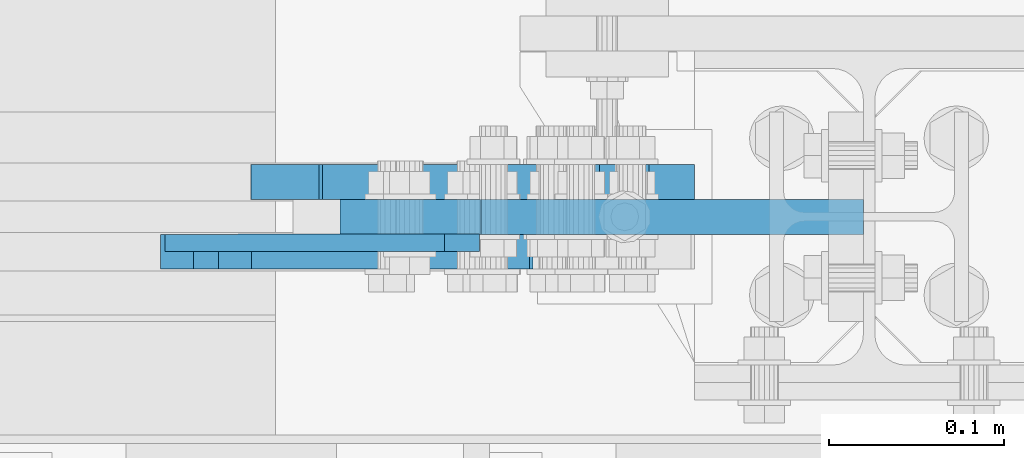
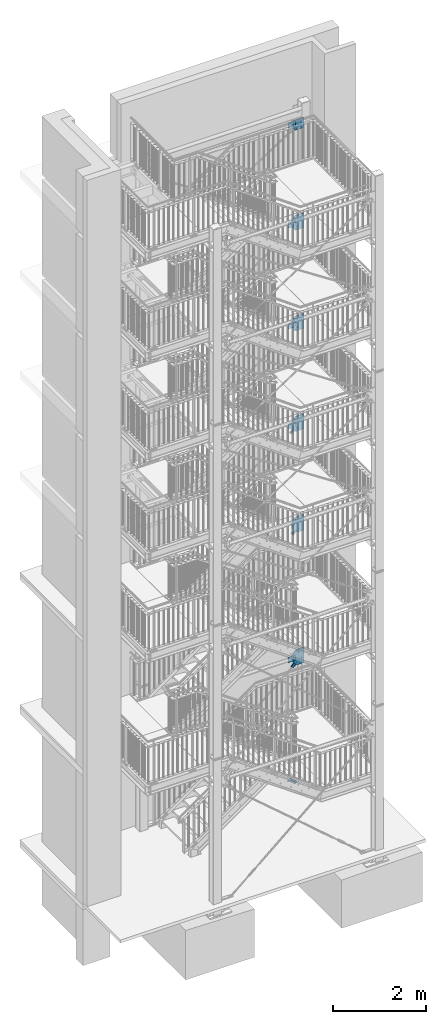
# One storey, part 210 of 825: 15 plates, 63 openings.
"""IFC2X3 building model written with IfcOpenShell, lengths in millimetres."""

from ifc_helpers import new_model, entity, si_unit, converted_unit, frame, frame_2d, origin, origin_with_axes, place, context, project, spatial, polyline, circle, outline, extrude, material, layer, layer_set, element, save


model = new_model("IFC2X3")

# Units and contexts
model_context = context("Model", 3, precision=1e-09, world=origin_with_axes())
ifc_project = project(units=[si_unit("LENGTHUNIT", "METRE", prefix="MILLI"), si_unit("AREAUNIT", "SQUARE_METRE"), si_unit("VOLUMEUNIT", "CUBIC_METRE"), converted_unit("PLANEANGLEUNIT", "DEGREE", entity("IfcPlaneAngleMeasure", 0.01745329), si_unit("PLANEANGLEUNIT", "RADIAN"), dimensions=[0, 0, 0, 0, 0, 0, 0])], contexts=[model_context])

# Site, building, storey
site_placement = place(None, origin_with_axes())
site = spatial("IfcSite", under=ifc_project, at=site_placement, Name="Cnopf'sche Kinderklinik", CompositionType="ELEMENT")
building_placement = place(site_placement, origin_with_axes())
building = spatial("IfcBuilding", under=site, at=building_placement, Name="Struktur 1", CompositionType="ELEMENT")
storey_placement = place(building_placement, origin_with_axes())
storey = spatial("IfcBuildingStorey", under=building, at=storey_placement, Name="Default Storey", CompositionType="ELEMENT", Elevation=0.0)

# Plate, openings
ifc_material = material(Name="S235JR")
ifc_layer_1 = layer(ifc_material, 10.0)
ifc_layer_set_1 = layer_set([ifc_layer_1], Name="S235JR")
plate_1_placement = place(None, frame((8553.463402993, 7506.736971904, 3511.999996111), z_axis=(0.0, -1.0, 0.0), x_axis=(1.0, 0.0, 0.0)))
plate_1 = element("IfcPlate", 1, at=plate_1_placement, inside=storey, material=ifc_layer_set_1, Name="-", ObjectType="-", context=model_context, shape_type="SweptSolid", body=[
    extrude(outline(polyline([(-90.0, -70.0), (90.0, -70.0), (90.0, 70.0), (-90.0, 70.0), (-90.0, -70.0)])), origin_with_axes(), (0.0, 0.0, 1.0), 10.0),
])
opening_1_placement = place(plate_1_placement, frame((0.0, 0.0, -0.01), z_axis=(0.0, 0.0, 1.0), x_axis=(1.0, 0.0, 0.0)))
element("IfcOpeningElement", 2, at=opening_1_placement, cuts=plate_1, ObjectType="Opening", context=model_context, shape_type="SweptSolid", body=[
    extrude(outline(polyline([(90.0, -70.0), (90.0, -50.0), (70.0, -70.0), (90.0, -70.0)])), origin(), (0.0, 0.0, 1.0), 10.02),
])
opening_2_placement = place(plate_1_placement, frame((0.0, 0.0, -0.01), z_axis=(0.0, 0.0, 1.0), x_axis=(1.0, 0.0, 0.0)))
element("IfcOpeningElement", 3, at=opening_2_placement, cuts=plate_1, ObjectType="Opening", context=model_context, shape_type="SweptSolid", body=[
    extrude(outline(polyline([(90.0, 70.0), (70.0, 70.0), (90.0, 50.0), (90.0, 70.0)])), origin(), (0.0, 0.0, 1.0), 10.02),
])
opening_3_placement = place(plate_1_placement, frame((50.0, 0.0, -0.5), z_axis=(0.0, 0.0, 1.0), x_axis=(1.0, 0.0, 0.0)))
element("IfcOpeningElement", 4, at=opening_3_placement, cuts=plate_1, ObjectType="Opening", context=model_context, shape_type="SweptSolid", body=[
    extrude(circle(Radius=9.001, at=frame_2d((0.0, 30.0), x_axis=(1.0, 0.0))), origin(), (0.0, 0.0, 1.0), 11.0),
])
opening_4_placement = place(plate_1_placement, frame((50.0, 0.0, -0.5), z_axis=(0.0, 0.0, 1.0), x_axis=(1.0, 0.0, 0.0)))
element("IfcOpeningElement", 5, at=opening_4_placement, cuts=plate_1, ObjectType="Opening", context=model_context, shape_type="SweptSolid", body=[
    extrude(circle(Radius=9.001, at=frame_2d((0.0, -30.0), x_axis=(1.0, 0.0))), origin(), (0.0, 0.0, 1.0), 11.0),
])

plate_2_placement = place(None, frame((8553.463402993, 7506.736971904, 9616.999996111), z_axis=(0.0, -1.0, 0.0), x_axis=(1.0, 0.0, 0.0)))
plate_2 = element("IfcPlate", 6, at=plate_2_placement, inside=storey, material=ifc_layer_set_1, Name="-", ObjectType="-", context=model_context, shape_type="SweptSolid", body=[
    extrude(outline(polyline([(-90.0, -70.0), (90.0, -70.0), (90.0, 70.0), (-90.0, 70.0), (-90.0, -70.0)])), origin_with_axes(), (0.0, 0.0, 1.0), 10.0),
])
opening_5_placement = place(plate_2_placement, frame((0.0, 0.0, -0.01), z_axis=(0.0, 0.0, 1.0), x_axis=(1.0, 0.0, 0.0)))
element("IfcOpeningElement", 7, at=opening_5_placement, cuts=plate_2, ObjectType="Opening", context=model_context, shape_type="SweptSolid", body=[
    extrude(outline(polyline([(90.0, -70.0), (90.0, -50.0), (70.0, -70.0), (90.0, -70.0)])), origin(), (0.0, 0.0, 1.0), 10.02),
])
opening_6_placement = place(plate_2_placement, frame((0.0, 0.0, -0.01), z_axis=(0.0, 0.0, 1.0), x_axis=(1.0, 0.0, 0.0)))
element("IfcOpeningElement", 8, at=opening_6_placement, cuts=plate_2, ObjectType="Opening", context=model_context, shape_type="SweptSolid", body=[
    extrude(outline(polyline([(90.0, 70.0), (70.0, 70.0), (90.0, 50.0), (90.0, 70.0)])), origin(), (0.0, 0.0, 1.0), 10.02),
])
opening_7_placement = place(plate_2_placement, frame((50.0, 0.0, -0.5), z_axis=(0.0, 0.0, 1.0), x_axis=(1.0, 0.0, 0.0)))
element("IfcOpeningElement", 9, at=opening_7_placement, cuts=plate_2, ObjectType="Opening", context=model_context, shape_type="SweptSolid", body=[
    extrude(circle(Radius=9.001, at=frame_2d((0.0, 30.0), x_axis=(1.0, 0.0))), origin(), (0.0, 0.0, 1.0), 11.0),
])
opening_8_placement = place(plate_2_placement, frame((50.0, 0.0, -0.5), z_axis=(0.0, 0.0, 1.0), x_axis=(1.0, 0.0, 0.0)))
element("IfcOpeningElement", 10, at=opening_8_placement, cuts=plate_2, ObjectType="Opening", context=model_context, shape_type="SweptSolid", body=[
    extrude(circle(Radius=9.001, at=frame_2d((0.0, -30.0), x_axis=(1.0, 0.0))), origin(), (0.0, 0.0, 1.0), 11.0),
])

ifc_layer_2 = layer(ifc_material, 20.0)
ifc_layer_set_2 = layer_set([ifc_layer_2], Name="S235JR")
plate_3_placement = place(None, frame((8863.463402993, 7506.736971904, 3302.430347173), z_axis=(0.0, -1.0, 0.0), x_axis=(0.0, 0.0, 1.0)))
plate_3 = element("IfcPlate", 11, at=plate_3_placement, inside=storey, material=ifc_layer_set_2, Name="-", ObjectType="-", context=model_context, shape_type="SweptSolid", body=[
    extrude(outline(polyline([(0.0, 0.0), (403.206365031, 0.0), (403.206365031, 192.087654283), (279.569648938, 300.0), (139.569648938, 300.0), (0.0, 181.139563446), (0.0, 0.0)])), origin_with_axes(), (0.0, 0.0, -1.0), 20.0),
])
opening_9_placement = place(plate_3_placement, frame((209.569648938, 260.0, -20.5), z_axis=(0.0, 0.0, 1.0), x_axis=(0.0, -1.0, 0.0)))
element("IfcOpeningElement", 12, at=opening_9_placement, cuts=plate_3, ObjectType="Opening", context=model_context, shape_type="SweptSolid", body=[
    extrude(circle(Radius=9.001, at=frame_2d((0.0, 30.0), x_axis=(1.0, 0.0))), origin(), (0.0, 0.0, 1.0), 21.0),
])
opening_10_placement = place(plate_3_placement, frame((209.569648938, 260.0, -20.5), z_axis=(0.0, 0.0, 1.0), x_axis=(0.0, -1.0, 0.0)))
element("IfcOpeningElement", 13, at=opening_10_placement, cuts=plate_3, ObjectType="Opening", context=model_context, shape_type="SweptSolid", body=[
    extrude(circle(Radius=9.001, at=frame_2d((0.0, -30.0), x_axis=(1.0, 0.0))), origin(), (0.0, 0.0, 1.0), 21.0),
])
opening_11_placement = place(plate_3_placement, frame((360.470508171, 170.983355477, -20.5), z_axis=(0.0, 0.0, -1.0), x_axis=(-1.0, 0.0, 0.0)))
element("IfcOpeningElement", 14, at=opening_11_placement, cuts=plate_3, ObjectType="Opening", context=model_context, shape_type="SweptSolid", body=[
    extrude(circle(Radius=9.001, at=frame_2d((-5.89276857, 6.803916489), x_axis=(1.0, 0.0))), origin(), (0.0, 0.0, -1.0), 21.0),
])
opening_12_placement = place(plate_3_placement, frame((321.189748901, 125.628951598, -20.5), z_axis=(0.0, 0.0, -1.0), x_axis=(-1.0, 0.0, 0.0)))
element("IfcOpeningElement", 15, at=opening_12_placement, cuts=plate_3, ObjectType="Opening", context=model_context, shape_type="SweptSolid", body=[
    extrude(circle(Radius=9.001, at=frame_2d((-5.89276857, 6.803916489), x_axis=(1.0, 0.0))), origin(), (0.0, 0.0, -1.0), 21.0),
])
opening_13_placement = place(plate_3_placement, frame((71.619889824, 156.998706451, -20.5), z_axis=(0.0, 0.0, 1.0), x_axis=(-0.652408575, 0.757867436, 0.0)))
element("IfcOpeningElement", 16, at=opening_13_placement, cuts=plate_3, ObjectType="Opening", context=model_context, shape_type="SweptSolid", body=[
    extrude(circle(Radius=9.001, at=frame_2d((30.0, 0.0), x_axis=(1.0, 0.0))), origin(), (0.0, 0.0, 1.0), 21.0),
])
opening_14_placement = place(plate_3_placement, frame((71.619889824, 156.998706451, -20.5), z_axis=(0.0, 0.0, 1.0), x_axis=(-0.652408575, 0.757867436, 0.0)))
element("IfcOpeningElement", 17, at=opening_14_placement, cuts=plate_3, ObjectType="Opening", context=model_context, shape_type="SweptSolid", body=[
    extrude(circle(Radius=9.001, at=frame_2d((-30.0, 0.0), x_axis=(1.0, 0.0))), origin(), (0.0, 0.0, 1.0), 21.0),
])

plate_4_placement = place(None, frame((8863.463402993, 7526.736971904, 7178.428402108), z_axis=(0.0, 1.0, 0.0), x_axis=(0.0, 0.0, -1.0)))
plate_4 = element("IfcPlate", 18, at=plate_4_placement, inside=storey, material=ifc_layer_set_2, Name="-", ObjectType="-", context=model_context, shape_type="SweptSolid", body=[
    extrude(outline(polyline([(0.0, 0.0), (404.06512209, 0.0), (404.06512209, 177.249749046), (263.428405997, 300.0), (123.428405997, 300.0), (0.0, 219.202103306), (0.0, 0.0)])), origin_with_axes(), (0.0, 0.0, -1.0), 20.0),
])
opening_15_placement = place(plate_4_placement, frame((193.428405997, 260.0, 0.5), z_axis=(0.0, 0.0, -1.0), x_axis=(0.0, -1.0, 0.0)))
element("IfcOpeningElement", 19, at=opening_15_placement, cuts=plate_4, ObjectType="Opening", context=model_context, shape_type="SweptSolid", body=[
    extrude(circle(Radius=9.001, at=frame_2d((0.0, 30.0), x_axis=(1.0, 0.0))), origin(), (0.0, 0.0, 1.0), 21.0),
])
opening_16_placement = place(plate_4_placement, frame((193.428405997, 260.0, 0.5), z_axis=(0.0, 0.0, -1.0), x_axis=(0.0, -1.0, 0.0)))
element("IfcOpeningElement", 20, at=opening_16_placement, cuts=plate_4, ObjectType="Opening", context=model_context, shape_type="SweptSolid", body=[
    extrude(circle(Radius=9.001, at=frame_2d((0.0, -30.0), x_axis=(1.0, 0.0))), origin(), (0.0, 0.0, 1.0), 21.0),
])
opening_17_placement = place(plate_4_placement, frame((57.299912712, 204.149413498, 0.5), z_axis=(0.0, 0.0, 1.0), x_axis=(1.0, 0.0, 0.0)))
element("IfcOpeningElement", 21, at=opening_17_placement, cuts=plate_4, ObjectType="Opening", context=model_context, shape_type="SweptSolid", body=[
    extrude(circle(Radius=9.001, at=frame_2d((-4.939030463, 7.524890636), x_axis=(1.0, 0.0))), origin(), (0.0, 0.0, -1.0), 21.0),
])
opening_18_placement = place(plate_4_placement, frame((90.223124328, 153.989049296, 0.5), z_axis=(0.0, 0.0, 1.0), x_axis=(1.0, 0.0, 0.0)))
element("IfcOpeningElement", 22, at=opening_18_placement, cuts=plate_4, ObjectType="Opening", context=model_context, shape_type="SweptSolid", body=[
    extrude(circle(Radius=9.001, at=frame_2d((-4.939030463, 7.524890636), x_axis=(1.0, 0.0))), origin(), (0.0, 0.0, -1.0), 21.0),
])
opening_19_placement = place(plate_4_placement, frame((330.702941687, 155.250111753, 0.5), z_axis=(0.0, 0.0, -1.0), x_axis=(0.654679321, 0.755906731, 0.0)))
element("IfcOpeningElement", 23, at=opening_19_placement, cuts=plate_4, ObjectType="Opening", context=model_context, shape_type="SweptSolid", body=[
    extrude(circle(Radius=9.001, at=frame_2d((30.0, 0.0), x_axis=(1.0, 0.0))), origin(), (0.0, 0.0, 1.0), 21.0),
])
opening_20_placement = place(plate_4_placement, frame((330.702941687, 155.250111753, 0.5), z_axis=(0.0, 0.0, -1.0), x_axis=(0.654679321, 0.755906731, 0.0)))
element("IfcOpeningElement", 24, at=opening_20_placement, cuts=plate_4, ObjectType="Opening", context=model_context, shape_type="SweptSolid", body=[
    extrude(circle(Radius=9.001, at=frame_2d((-30.0, 0.0), x_axis=(1.0, 0.0))), origin(), (0.0, 0.0, 1.0), 21.0),
])

plate_5_placement = place(None, frame((8863.463402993, 7526.736971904, 9810.428402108), z_axis=(0.0, 1.0, 0.0), x_axis=(0.0, 0.0, -1.0)))
plate_5 = element("IfcPlate", 25, at=plate_5_placement, inside=storey, material=ifc_layer_set_2, Name="-", ObjectType="-", context=model_context, shape_type="SweptSolid", body=[
    extrude(outline(polyline([(0.0, 0.0), (386.856811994, 0.0), (386.856811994, 219.202103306), (263.428405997, 300.0), (123.428405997, 300.0), (0.0, 219.202103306), (0.0, 0.0)])), origin_with_axes(), (0.0, 0.0, -1.0), 20.0),
])
opening_21_placement = place(plate_5_placement, frame((193.428405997, 260.0, 0.5), z_axis=(0.0, 0.0, -1.0), x_axis=(0.0, -1.0, 0.0)))
element("IfcOpeningElement", 26, at=opening_21_placement, cuts=plate_5, ObjectType="Opening", context=model_context, shape_type="SweptSolid", body=[
    extrude(circle(Radius=9.001, at=frame_2d((0.0, 30.0), x_axis=(1.0, 0.0))), origin(), (0.0, 0.0, 1.0), 21.0),
])
opening_22_placement = place(plate_5_placement, frame((193.428405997, 260.0, 0.5), z_axis=(0.0, 0.0, -1.0), x_axis=(0.0, -1.0, 0.0)))
element("IfcOpeningElement", 27, at=opening_22_placement, cuts=plate_5, ObjectType="Opening", context=model_context, shape_type="SweptSolid", body=[
    extrude(circle(Radius=9.001, at=frame_2d((0.0, -30.0), x_axis=(1.0, 0.0))), origin(), (0.0, 0.0, 1.0), 21.0),
])
opening_23_placement = place(plate_5_placement, frame((318.119575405, 186.723853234, 0.5), z_axis=(0.0, 0.0, -1.0), x_axis=(0.548722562, 0.836004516, 0.0)))
element("IfcOpeningElement", 28, at=opening_23_placement, cuts=plate_5, ObjectType="Opening", context=model_context, shape_type="SweptSolid", body=[
    extrude(circle(Radius=9.001, at=frame_2d((30.0, 0.0), x_axis=(1.0, 0.0))), origin(), (0.0, 0.0, 1.0), 21.0),
])
opening_24_placement = place(plate_5_placement, frame((318.119575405, 186.723853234, 0.5), z_axis=(0.0, 0.0, -1.0), x_axis=(0.548722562, 0.836004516, 0.0)))
element("IfcOpeningElement", 29, at=opening_24_placement, cuts=plate_5, ObjectType="Opening", context=model_context, shape_type="SweptSolid", body=[
    extrude(circle(Radius=9.001, at=frame_2d((-30.0, 0.0), x_axis=(1.0, 0.0))), origin(), (0.0, 0.0, 1.0), 21.0),
])
opening_25_placement = place(plate_5_placement, frame((57.480828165, 204.267999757, 0.5), z_axis=(0.0, 0.0, 1.0), x_axis=(1.0, 0.0, 0.0)))
element("IfcOpeningElement", 30, at=opening_25_placement, cuts=plate_5, ObjectType="Opening", context=model_context, shape_type="SweptSolid", body=[
    extrude(circle(Radius=9.001, at=frame_2d((-4.932467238, 7.529194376), x_axis=(1.0, 0.0))), origin(), (0.0, 0.0, -1.0), 21.0),
])
opening_26_placement = place(plate_5_placement, frame((90.360289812, 154.078947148, 0.5), z_axis=(0.0, 0.0, 1.0), x_axis=(1.0, 0.0, 0.0)))
element("IfcOpeningElement", 31, at=opening_26_placement, cuts=plate_5, ObjectType="Opening", context=model_context, shape_type="SweptSolid", body=[
    extrude(circle(Radius=9.001, at=frame_2d((-4.932467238, 7.529194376), x_axis=(1.0, 0.0))), origin(), (0.0, 0.0, -1.0), 21.0),
])

plate_6_placement = place(None, frame((8863.463402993, 7526.736971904, 12437.428402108), z_axis=(0.0, 1.0, 0.0), x_axis=(0.0, 0.0, -1.0)))
plate_6 = element("IfcPlate", 32, at=plate_6_placement, inside=storey, material=ifc_layer_set_2, Name="-", ObjectType="-", context=model_context, shape_type="SweptSolid", body=[
    extrude(outline(polyline([(0.0, 0.0), (386.856811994, 0.0), (386.856811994, 219.202103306), (263.428405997, 300.0), (123.428405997, 300.0), (0.0, 219.202103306), (0.0, 0.0)])), origin_with_axes(), (0.0, 0.0, -1.0), 20.0),
])
opening_27_placement = place(plate_6_placement, frame((193.428405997, 260.000000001, 0.5), z_axis=(0.0, 0.0, -1.0), x_axis=(0.0, -1.0, 0.0)))
element("IfcOpeningElement", 33, at=opening_27_placement, cuts=plate_6, ObjectType="Opening", context=model_context, shape_type="SweptSolid", body=[
    extrude(circle(Radius=9.001, at=frame_2d((0.0, 30.0), x_axis=(1.0, 0.0))), origin(), (0.0, 0.0, 1.0), 21.0),
])
opening_28_placement = place(plate_6_placement, frame((193.428405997, 260.000000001, 0.5), z_axis=(0.0, 0.0, -1.0), x_axis=(0.0, -1.0, 0.0)))
element("IfcOpeningElement", 34, at=opening_28_placement, cuts=plate_6, ObjectType="Opening", context=model_context, shape_type="SweptSolid", body=[
    extrude(circle(Radius=9.001, at=frame_2d((0.0, -30.0), x_axis=(1.0, 0.0))), origin(), (0.0, 0.0, 1.0), 21.0),
])
opening_29_placement = place(plate_6_placement, frame((57.191453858, 204.078340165, 0.5), z_axis=(0.0, 0.0, 1.0), x_axis=(1.0, 0.0, 0.0)))
element("IfcOpeningElement", 35, at=opening_29_placement, cuts=plate_6, ObjectType="Opening", context=model_context, shape_type="SweptSolid", body=[
    extrude(circle(Radius=9.001, at=frame_2d((-4.942962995, 7.522308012), x_axis=(1.0, 0.0))), origin(), (0.0, 0.0, -1.0), 21.0),
])
opening_30_placement = place(plate_6_placement, frame((90.140879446, 153.935191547, 0.5), z_axis=(0.0, 0.0, 1.0), x_axis=(1.0, 0.0, 0.0)))
element("IfcOpeningElement", 36, at=opening_30_placement, cuts=plate_6, ObjectType="Opening", context=model_context, shape_type="SweptSolid", body=[
    extrude(circle(Radius=9.001, at=frame_2d((-4.942962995, 7.522308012), x_axis=(1.0, 0.0))), origin(), (0.0, 0.0, -1.0), 21.0),
])
opening_31_placement = place(plate_6_placement, frame((317.95335929, 186.83257031, 0.5), z_axis=(0.0, 0.0, -1.0), x_axis=(0.54798027, 0.836491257, 0.0)))
element("IfcOpeningElement", 37, at=opening_31_placement, cuts=plate_6, ObjectType="Opening", context=model_context, shape_type="SweptSolid", body=[
    extrude(circle(Radius=9.001, at=frame_2d((30.0, 0.0), x_axis=(1.0, 0.0))), origin(), (0.0, 0.0, 1.0), 21.0),
])
opening_32_placement = place(plate_6_placement, frame((317.95335929, 186.83257031, 0.5), z_axis=(0.0, 0.0, -1.0), x_axis=(0.54798027, 0.836491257, 0.0)))
element("IfcOpeningElement", 38, at=opening_32_placement, cuts=plate_6, ObjectType="Opening", context=model_context, shape_type="SweptSolid", body=[
    extrude(circle(Radius=9.001, at=frame_2d((-30.0, 0.0), x_axis=(1.0, 0.0))), origin(), (0.0, 0.0, 1.0), 21.0),
])

plate_7_placement = place(None, frame((8863.463402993, 7526.736971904, 15072.428402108), z_axis=(0.0, 1.0, 0.0), x_axis=(0.0, 0.0, -1.0)))
plate_7 = element("IfcPlate", 39, at=plate_7_placement, inside=storey, material=ifc_layer_set_2, Name="-", ObjectType="-", context=model_context, shape_type="SweptSolid", body=[
    extrude(outline(polyline([(0.0, 0.0), (386.856811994, 0.0), (386.856811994, 219.202103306), (263.428405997, 300.0), (123.428405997, 300.0), (0.0, 219.202103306), (0.0, 0.0)])), origin_with_axes(), (0.0, 0.0, -1.0), 20.0),
])
opening_33_placement = place(plate_7_placement, frame((193.428405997, 260.0, 0.5), z_axis=(0.0, 0.0, -1.0), x_axis=(0.0, -1.0, 0.0)))
element("IfcOpeningElement", 40, at=opening_33_placement, cuts=plate_7, ObjectType="Opening", context=model_context, shape_type="SweptSolid", body=[
    extrude(circle(Radius=9.001, at=frame_2d((0.0, 30.0), x_axis=(1.0, 0.0))), origin(), (0.0, 0.0, 1.0), 21.0),
])
opening_34_placement = place(plate_7_placement, frame((193.428405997, 260.0, 0.5), z_axis=(0.0, 0.0, -1.0), x_axis=(0.0, -1.0, 0.0)))
element("IfcOpeningElement", 41, at=opening_34_placement, cuts=plate_7, ObjectType="Opening", context=model_context, shape_type="SweptSolid", body=[
    extrude(circle(Radius=9.001, at=frame_2d((0.0, -30.0), x_axis=(1.0, 0.0))), origin(), (0.0, 0.0, 1.0), 21.0),
])
opening_35_placement = place(plate_7_placement, frame((57.734426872, 204.434295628, 0.5), z_axis=(0.0, 0.0, 1.0), x_axis=(1.0, 0.0, 0.0)))
element("IfcOpeningElement", 42, at=opening_35_placement, cuts=plate_7, ObjectType="Opening", context=model_context, shape_type="SweptSolid", body=[
    extrude(circle(Radius=9.001, at=frame_2d((-4.923259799, 7.535218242), x_axis=(1.0, 0.0))), origin(), (0.0, 0.0, -1.0), 21.0),
])
opening_36_placement = place(plate_7_placement, frame((90.552512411, 154.205088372, 0.5), z_axis=(0.0, 0.0, 1.0), x_axis=(1.0, 0.0, 0.0)))
element("IfcOpeningElement", 43, at=opening_36_placement, cuts=plate_7, ObjectType="Opening", context=model_context, shape_type="SweptSolid", body=[
    extrude(circle(Radius=9.001, at=frame_2d((-4.923259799, 7.535218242), x_axis=(1.0, 0.0))), origin(), (0.0, 0.0, -1.0), 21.0),
])
opening_37_placement = place(plate_7_placement, frame((318.218924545, 186.658910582, 0.5), z_axis=(0.0, 0.0, -1.0), x_axis=(0.549157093, 0.835719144, 0.0)))
element("IfcOpeningElement", 44, at=opening_37_placement, cuts=plate_7, ObjectType="Opening", context=model_context, shape_type="SweptSolid", body=[
    extrude(circle(Radius=9.001, at=frame_2d((30.0, 0.0), x_axis=(1.0, 0.0))), origin(), (0.0, 0.0, 1.0), 21.0),
])
opening_38_placement = place(plate_7_placement, frame((318.218924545, 186.658910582, 0.5), z_axis=(0.0, 0.0, -1.0), x_axis=(0.549157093, 0.835719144, 0.0)))
element("IfcOpeningElement", 45, at=opening_38_placement, cuts=plate_7, ObjectType="Opening", context=model_context, shape_type="SweptSolid", body=[
    extrude(circle(Radius=9.001, at=frame_2d((-30.0, 0.0), x_axis=(1.0, 0.0))), origin(), (0.0, 0.0, 1.0), 21.0),
])

plate_8_placement = place(None, frame((8563.463402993, 7526.736971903, 17582.999996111), z_axis=(0.0, 1.0, 0.0), x_axis=(1.0, 0.0, 0.0)))
plate_8 = element("IfcPlate", 46, at=plate_8_placement, inside=storey, material=ifc_layer_set_2, Name="-", ObjectType="-", context=model_context, shape_type="SweptSolid", body=[
    extrude(outline(polyline([(0.0, -110.000000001), (300.0, -110.000000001), (300.0, 277.428405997), (80.797896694, 277.428405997), (0.0, 154.0), (0.0, -110.000000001)])), origin_with_axes(), (0.0, 0.0, -1.0), 20.0),
])
opening_39_placement = place(plate_8_placement, frame((63.904513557, -490.388845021, 0.1), z_axis=(0.0, 0.0, 1.0), x_axis=(0.790386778, 0.612608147, 0.0)))
element("IfcOpeningElement", 47, at=opening_39_placement, cuts=plate_8, ObjectType="Opening", context=model_context, shape_type="SweptSolid", body=[
    extrude(outline(polyline([(0.0, 0.0), (816.820415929, 0.0), (166.904816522, 503.732605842), (0.0, 0.0)])), origin(), (0.0, 0.0, -1.0), 20.2),
])
opening_40_placement = place(plate_8_placement, frame((40.0, 84.0, 0.5), z_axis=(0.0, 0.0, -1.0), x_axis=(1.0, 0.0, 0.0)))
element("IfcOpeningElement", 48, at=opening_40_placement, cuts=plate_8, ObjectType="Opening", context=model_context, shape_type="SweptSolid", body=[
    extrude(circle(Radius=9.001, at=frame_2d((0.0, 30.0), x_axis=(1.0, 0.0))), origin(), (0.0, 0.0, 1.0), 21.0),
])
opening_41_placement = place(plate_8_placement, frame((40.0, 84.0, 0.5), z_axis=(0.0, 0.0, -1.0), x_axis=(1.0, 0.0, 0.0)))
element("IfcOpeningElement", 49, at=opening_41_placement, cuts=plate_8, ObjectType="Opening", context=model_context, shape_type="SweptSolid", body=[
    extrude(circle(Radius=9.001, at=frame_2d((0.0, -30.0), x_axis=(1.0, 0.0))), origin(), (0.0, 0.0, 1.0), 21.0),
])
opening_42_placement = place(plate_8_placement, frame((113.015549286, 208.292833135, 0.5), z_axis=(0.0, 0.0, -1.0), x_axis=(-0.837153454, 0.546968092, 0.0)))
element("IfcOpeningElement", 50, at=opening_42_placement, cuts=plate_8, ObjectType="Opening", context=model_context, shape_type="SweptSolid", body=[
    extrude(circle(Radius=9.001, at=frame_2d((30.0, 0.0), x_axis=(1.0, 0.0))), origin(), (0.0, 0.0, 1.0), 21.0),
])
opening_43_placement = place(plate_8_placement, frame((113.015549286, 208.292833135, 0.5), z_axis=(0.0, 0.0, -1.0), x_axis=(-0.837153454, 0.546968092, 0.0)))
element("IfcOpeningElement", 51, at=opening_43_placement, cuts=plate_8, ObjectType="Opening", context=model_context, shape_type="SweptSolid", body=[
    extrude(circle(Radius=9.001, at=frame_2d((-30.0, 0.0), x_axis=(1.0, 0.0))), origin(), (0.0, 0.0, 1.0), 21.0),
])

plate_9_placement = place(None, frame((8553.463402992, 7506.736971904, 12243.999996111), z_axis=(0.0, -1.0, 0.0), x_axis=(1.0, 0.0, 0.0)))
plate_9 = element("IfcPlate", 52, at=plate_9_placement, inside=storey, material=ifc_layer_set_1, Name="-", ObjectType="-", context=model_context, shape_type="SweptSolid", body=[
    extrude(outline(polyline([(-90.0, -70.0), (90.0, -70.0), (90.0, 70.0), (-90.0, 70.0), (-90.0, -70.0)])), origin_with_axes(), (0.0, 0.0, 1.0), 10.0),
])
opening_44_placement = place(plate_9_placement, frame((0.0, 0.0, -0.01), z_axis=(0.0, 0.0, 1.0), x_axis=(1.0, 0.0, 0.0)))
element("IfcOpeningElement", 53, at=opening_44_placement, cuts=plate_9, ObjectType="Opening", context=model_context, shape_type="SweptSolid", body=[
    extrude(outline(polyline([(90.0, -70.0), (90.0, -50.0), (70.0, -70.0), (90.0, -70.0)])), origin(), (0.0, 0.0, 1.0), 10.02),
])
opening_45_placement = place(plate_9_placement, frame((0.0, 0.0, -0.01), z_axis=(0.0, 0.0, 1.0), x_axis=(1.0, 0.0, 0.0)))
element("IfcOpeningElement", 54, at=opening_45_placement, cuts=plate_9, ObjectType="Opening", context=model_context, shape_type="SweptSolid", body=[
    extrude(outline(polyline([(90.0, 70.0), (70.0, 70.0), (90.0, 50.0), (90.0, 70.0)])), origin(), (0.0, 0.0, 1.0), 10.02),
])
opening_46_placement = place(plate_9_placement, frame((50.0, 0.0, -0.5), z_axis=(0.0, 0.0, 1.0), x_axis=(1.0, 0.0, 0.0)))
element("IfcOpeningElement", 55, at=opening_46_placement, cuts=plate_9, ObjectType="Opening", context=model_context, shape_type="SweptSolid", body=[
    extrude(circle(Radius=9.001, at=frame_2d((0.0, 30.0), x_axis=(1.0, 0.0))), origin(), (0.0, 0.0, 1.0), 11.0),
])
opening_47_placement = place(plate_9_placement, frame((50.0, 0.0, -0.5), z_axis=(0.0, 0.0, 1.0), x_axis=(1.0, 0.0, 0.0)))
element("IfcOpeningElement", 56, at=opening_47_placement, cuts=plate_9, ObjectType="Opening", context=model_context, shape_type="SweptSolid", body=[
    extrude(circle(Radius=9.001, at=frame_2d((0.0, -30.0), x_axis=(1.0, 0.0))), origin(), (0.0, 0.0, 1.0), 11.0),
])

plate_10_placement = place(None, frame((8553.463402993, 7506.736971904, 14878.999996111), z_axis=(0.0, -1.0, 0.0), x_axis=(1.0, 0.0, 0.0)))
plate_10 = element("IfcPlate", 57, at=plate_10_placement, inside=storey, material=ifc_layer_set_1, Name="-", ObjectType="-", context=model_context, shape_type="SweptSolid", body=[
    extrude(outline(polyline([(-90.0, -70.0), (90.0, -70.0), (90.0, 70.0), (-90.0, 70.0), (-90.0, -70.0)])), origin_with_axes(), (0.0, 0.0, 1.0), 10.0),
])
opening_48_placement = place(plate_10_placement, frame((0.0, 0.0, -0.01), z_axis=(0.0, 0.0, 1.0), x_axis=(1.0, 0.0, 0.0)))
element("IfcOpeningElement", 58, at=opening_48_placement, cuts=plate_10, ObjectType="Opening", context=model_context, shape_type="SweptSolid", body=[
    extrude(outline(polyline([(90.0, -70.0), (90.0, -50.0), (70.0, -70.0), (90.0, -70.0)])), origin(), (0.0, 0.0, 1.0), 10.02),
])
opening_49_placement = place(plate_10_placement, frame((0.0, 0.0, -0.01), z_axis=(0.0, 0.0, 1.0), x_axis=(1.0, 0.0, 0.0)))
element("IfcOpeningElement", 59, at=opening_49_placement, cuts=plate_10, ObjectType="Opening", context=model_context, shape_type="SweptSolid", body=[
    extrude(outline(polyline([(90.0, 70.0), (70.0, 70.0), (90.0, 50.0), (90.0, 70.0)])), origin(), (0.0, 0.0, 1.0), 10.02),
])
opening_50_placement = place(plate_10_placement, frame((50.0, 0.0, -0.5), z_axis=(0.0, 0.0, 1.0), x_axis=(1.0, 0.0, 0.0)))
element("IfcOpeningElement", 60, at=opening_50_placement, cuts=plate_10, ObjectType="Opening", context=model_context, shape_type="SweptSolid", body=[
    extrude(circle(Radius=9.001, at=frame_2d((0.0, 30.0), x_axis=(1.0, 0.0))), origin(), (0.0, 0.0, 1.0), 11.0),
])
opening_51_placement = place(plate_10_placement, frame((50.0, 0.0, -0.5), z_axis=(0.0, 0.0, 1.0), x_axis=(1.0, 0.0, 0.0)))
element("IfcOpeningElement", 61, at=opening_51_placement, cuts=plate_10, ObjectType="Opening", context=model_context, shape_type="SweptSolid", body=[
    extrude(circle(Radius=9.001, at=frame_2d((0.0, -30.0), x_axis=(1.0, 0.0))), origin(), (0.0, 0.0, 1.0), 11.0),
])

plate_11_placement = place(None, frame((8553.463402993, 7506.736971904, 17498.999996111), z_axis=(0.0, -1.0, 0.0), x_axis=(1.0, 0.0, 0.0)))
plate_11 = element("IfcPlate", 62, at=plate_11_placement, inside=storey, material=ifc_layer_set_1, Name="-", ObjectType="-", context=model_context, shape_type="SweptSolid", body=[
    extrude(outline(polyline([(-90.0, -70.0), (90.0, -70.0), (90.0, 70.0), (-90.0, 70.0), (-90.0, -70.0)])), origin_with_axes(), (0.0, 0.0, 1.0), 10.0),
])
opening_52_placement = place(plate_11_placement, frame((0.0, 0.0, -0.01), z_axis=(0.0, 0.0, 1.0), x_axis=(1.0, 0.0, 0.0)))
element("IfcOpeningElement", 63, at=opening_52_placement, cuts=plate_11, ObjectType="Opening", context=model_context, shape_type="SweptSolid", body=[
    extrude(outline(polyline([(90.0, -70.0), (90.0, -50.0), (70.0, -70.0), (90.0, -70.0)])), origin(), (0.0, 0.0, 1.0), 10.02),
])
opening_53_placement = place(plate_11_placement, frame((0.0, 0.0, -0.01), z_axis=(0.0, 0.0, 1.0), x_axis=(1.0, 0.0, 0.0)))
element("IfcOpeningElement", 64, at=opening_53_placement, cuts=plate_11, ObjectType="Opening", context=model_context, shape_type="SweptSolid", body=[
    extrude(outline(polyline([(90.0, 70.0), (70.0, 70.0), (90.0, 50.0), (90.0, 70.0)])), origin(), (0.0, 0.0, 1.0), 10.02),
])
opening_54_placement = place(plate_11_placement, frame((50.0, 0.0, -0.5), z_axis=(0.0, 0.0, 1.0), x_axis=(1.0, 0.0, 0.0)))
element("IfcOpeningElement", 65, at=opening_54_placement, cuts=plate_11, ObjectType="Opening", context=model_context, shape_type="SweptSolid", body=[
    extrude(circle(Radius=9.001, at=frame_2d((0.0, 30.0), x_axis=(1.0, 0.0))), origin(), (0.0, 0.0, 1.0), 11.0),
])
opening_55_placement = place(plate_11_placement, frame((50.0, 0.0, -0.5), z_axis=(0.0, 0.0, 1.0), x_axis=(1.0, 0.0, 0.0)))
element("IfcOpeningElement", 66, at=opening_55_placement, cuts=plate_11, ObjectType="Opening", context=model_context, shape_type="SweptSolid", body=[
    extrude(circle(Radius=9.001, at=frame_2d((0.0, -30.0), x_axis=(1.0, 0.0))), origin(), (0.0, 0.0, 1.0), 11.0),
])

plate_12_placement = place(None, frame((8586.910619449, 7546.736971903, 6728.115001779), z_axis=(0.0, -1.0, 0.0), x_axis=(0.654679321, 0.0, -0.755906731)))
plate_12 = element("IfcPlate", 67, at=plate_12_placement, inside=storey, material=ifc_layer_set_2, Name="-", ObjectType="-", context=model_context, shape_type="SweptSolid", body=[
    extrude(outline(polyline([(0.0, 0.0), (29.0, 0.0), (29.0, 210.0), (9.0, 230.0), (-31.0, 230.0), (-51.0, 210.0), (-51.0, 0.0), (-22.0, 0.0), (-22.0, 80.0), (0.0, 80.0), (0.0, 0.0)])), origin_with_axes(), (0.0, 0.0, 1.0), 20.0),
])
opening_56_placement = place(plate_12_placement, frame((-11.0, 170.0, -0.5), z_axis=(0.0, 0.0, 1.0), x_axis=(0.0, -1.0, 0.0)))
element("IfcOpeningElement", 68, at=opening_56_placement, cuts=plate_12, ObjectType="Opening", context=model_context, shape_type="SweptSolid", body=[
    extrude(circle(Radius=9.001, at=frame_2d((30.0, 0.0), x_axis=(1.0, 0.0))), origin(), (0.0, 0.0, 1.0), 21.0),
])
opening_57_placement = place(plate_12_placement, frame((-11.0, 170.0, -0.5), z_axis=(0.0, 0.0, 1.0), x_axis=(0.0, -1.0, 0.0)))
element("IfcOpeningElement", 69, at=opening_57_placement, cuts=plate_12, ObjectType="Opening", context=model_context, shape_type="SweptSolid", body=[
    extrude(circle(Radius=9.001, at=frame_2d((-30.0, 0.0), x_axis=(1.0, 0.0))), origin(), (0.0, 0.0, 1.0), 21.0),
])

plate_13_placement = place(None, frame((8494.057714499, 7506.736971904, 395.314271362), z_axis=(0.0, 1.0, 0.0), x_axis=(0.652408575, 0.0, 0.757867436)))
plate_13 = element("IfcPlate", 70, at=plate_13_placement, inside=storey, material=ifc_layer_set_2, Name="-", ObjectType="-", context=model_context, shape_type="SweptSolid", body=[
    extrude(outline(polyline([(0.0, 0.0), (29.0, 0.0), (29.0, 210.0), (9.0, 230.0), (-31.0, 230.0), (-51.0, 210.0), (-51.0, 0.0), (-22.0, 0.0), (-22.0, 80.0), (0.0, 80.0), (0.0, 0.0)])), origin_with_axes(), (0.0, 0.0, -1.0), 20.0),
])
opening_58_placement = place(plate_13_placement, frame((-11.000000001, 149.001, 0.5), z_axis=(0.0, 0.0, 1.0), x_axis=(1.0, 0.0, 0.0)))
element("IfcOpeningElement", 71, at=opening_58_placement, cuts=plate_13, ObjectType="Opening", context=model_context, shape_type="SweptSolid", body=[
    extrude(circle(Radius=9.001, at=frame_2d((0.0, -9.001), x_axis=(1.0, 0.0))), origin(), (0.0, 0.0, -1.0), 21.0),
])
opening_59_placement = place(plate_13_placement, frame((-11.000000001, 209.001, 0.5), z_axis=(0.0, 0.0, 1.0), x_axis=(1.0, 0.0, 0.0)))
element("IfcOpeningElement", 72, at=opening_59_placement, cuts=plate_13, ObjectType="Opening", context=model_context, shape_type="SweptSolid", body=[
    extrude(circle(Radius=9.001, at=frame_2d((0.0, -9.001), x_axis=(1.0, 0.0))), origin(), (0.0, 0.0, -1.0), 21.0),
])

plate_14_placement = place(None, frame((8584.803726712, 7546.736971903, 3254.8042374), z_axis=(0.0, -1.0, 0.0), x_axis=(0.652408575, 0.0, -0.757867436)))
plate_14 = element("IfcPlate", 73, at=plate_14_placement, inside=storey, material=ifc_layer_set_2, Name="-", ObjectType="-", context=model_context, shape_type="SweptSolid", body=[
    extrude(outline(polyline([(0.0, 0.0), (29.0, 0.0), (29.0, 210.0), (9.0, 230.0), (-31.0, 230.0), (-51.0, 210.0), (-51.0, 0.0), (-22.0, 0.0), (-22.0, 80.0), (0.0, 80.0), (0.0, 0.0)])), origin_with_axes(), (0.0, 0.0, 1.0), 20.0),
])
opening_60_placement = place(plate_14_placement, frame((-11.000000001, 170.0, -0.5), z_axis=(0.0, 0.0, 1.0), x_axis=(0.0, -1.0, 0.0)))
element("IfcOpeningElement", 74, at=opening_60_placement, cuts=plate_14, ObjectType="Opening", context=model_context, shape_type="SweptSolid", body=[
    extrude(circle(Radius=9.001, at=frame_2d((30.0, 0.0), x_axis=(1.0, 0.0))), origin(), (0.0, 0.0, 1.0), 21.0),
])
opening_61_placement = place(plate_14_placement, frame((-11.000000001, 170.0, -0.5), z_axis=(0.0, 0.0, 1.0), x_axis=(0.0, -1.0, 0.0)))
element("IfcOpeningElement", 75, at=opening_61_placement, cuts=plate_14, ObjectType="Opening", context=model_context, shape_type="SweptSolid", body=[
    extrude(circle(Radius=9.001, at=frame_2d((-30.0, 0.0), x_axis=(1.0, 0.0))), origin(), (0.0, 0.0, 1.0), 21.0),
])

plate_15_placement = place(None, frame((8540.654730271, 7546.736971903, 9389.829941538), z_axis=(0.0, -1.0, 0.0), x_axis=(0.548722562, 0.0, -0.836004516)))
plate_15 = element("IfcPlate", 76, at=plate_15_placement, inside=storey, material=ifc_layer_set_2, Name="-", ObjectType="-", context=model_context, shape_type="SweptSolid", body=[
    extrude(outline(polyline([(0.0, 0.0), (29.0, 0.0), (29.0, 210.0), (9.0, 230.0), (-31.0, 230.0), (-51.0, 210.0), (-51.0, 0.0), (-22.0, 0.0), (-22.0, 80.0), (0.0, 80.0), (0.0, 0.0)])), origin_with_axes(), (0.0, 0.0, 1.0), 20.0),
])
opening_62_placement = place(plate_15_placement, frame((-11.0, 170.0, -0.5), z_axis=(0.0, 0.0, 1.0), x_axis=(0.0, -1.0, 0.0)))
element("IfcOpeningElement", 77, at=opening_62_placement, cuts=plate_15, ObjectType="Opening", context=model_context, shape_type="SweptSolid", body=[
    extrude(circle(Radius=9.001, at=frame_2d((30.0, 0.0), x_axis=(1.0, 0.0))), origin(), (0.0, 0.0, 1.0), 21.0),
])
opening_63_placement = place(plate_15_placement, frame((-11.0, 170.0, -0.5), z_axis=(0.0, 0.0, 1.0), x_axis=(0.0, -1.0, 0.0)))
element("IfcOpeningElement", 78, at=opening_63_placement, cuts=plate_15, ObjectType="Opening", context=model_context, shape_type="SweptSolid", body=[
    extrude(circle(Radius=9.001, at=frame_2d((-30.0, 0.0), x_axis=(1.0, 0.0))), origin(), (0.0, 0.0, 1.0), 21.0),
])

save(model, "model.ifc")
